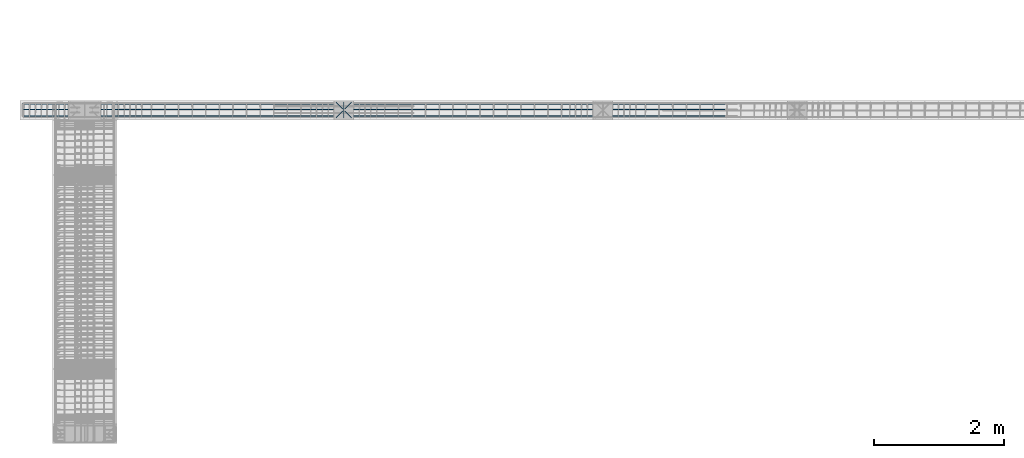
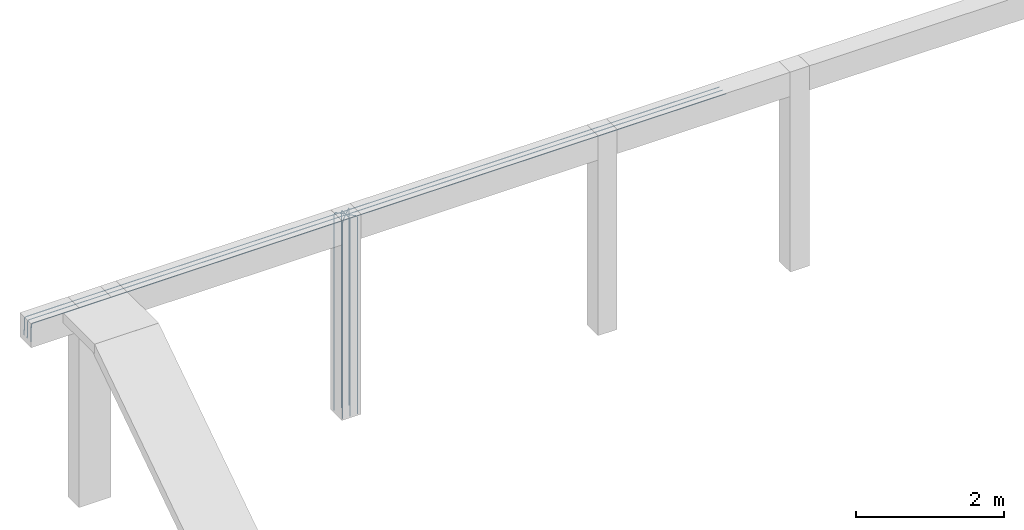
# One storey, part 9 of 24: 2 reinforcing bars.
"""IFC2X3 building model written with IfcOpenShell, lengths in metres."""

import ifcopenshell
import ifcopenshell.guid

model = None  # the IFC model being written
_history = None  # IfcOwnerHistory: only IFC2X3 demands one
_inside = {}  # id of a spatial element -> (the spatial element, [elements in it])
_under = {}  # id of a project, library or spatial element -> (it, [spatial elements below it])
_declared = {}  # id of a project -> (the project, [libraries it declares])
_typed = {}  # id of a type object -> (the type object, [elements of that type])
_made_of = {}  # id of a material, layer set ... -> (it, [elements and type objects made of it])


def new_model(schema):
    """Start an empty IFC model of exactly this schema.

    Asked for "IFC4X3", IfcOpenShell would pick the latest addendum, in which some entities
    have other attributes; the version numbers below select the first issue.
    IFC2X3 requires an IfcOwnerHistory on every rooted entity: one is made here for all.
    """
    global model, _history
    if schema == "IFC4X3":
        model = ifcopenshell.file(schema_version=(4, 3, 0, 0))
    else:
        model = ifcopenshell.file(schema=schema)
    _inside.clear()
    _under.clear()
    _declared.clear()
    _typed.clear()
    _made_of.clear()
    _history = None
    if model.schema == "IFC2X3":
        org = make("IfcOrganization", Name="unknown")
        user = make(
            "IfcPersonAndOrganization",
            ThePerson=make("IfcPerson", FamilyName="unknown"),
            TheOrganization=org,
        )
        app = make(
            "IfcApplication",
            ApplicationDeveloper=org,
            Version="unknown",
            ApplicationFullName="unknown",
            ApplicationIdentifier="unknown",
        )
        _history = make(
            "IfcOwnerHistory",
            OwningUser=user,
            OwningApplication=app,
            ChangeAction="ADDED",
            CreationDate=0,
        )
    return model


def make(cls, **values):
    """One entity of the class cls with the attributes given. An attribute that is None is left unset."""
    return model.create_entity(
        cls, **{name: value for name, value in values.items() if value is not None}
    )


def entity(cls, *values):
    """Any entity or typed value of the class cls, its attributes in the order of the schema. None: left unset."""
    e = model.create_entity(cls)
    for i, value in enumerate(values):
        if value is not None:
            e[i] = value
    return e


def rooted(cls, **values):
    """An entity with a GlobalId (a new one), such as an element, a storey or a relation."""
    return make(cls, GlobalId=ifcopenshell.guid.new(), OwnerHistory=_history, **values)


def si_unit(unit_type, name, prefix=None):
    """IfcSIUnit, for example si_unit("LENGTHUNIT", "METRE", prefix="MILLI")."""
    return make("IfcSIUnit", UnitType=unit_type, Prefix=prefix, Name=name)


def assignment(units):
    """IfcUnitAssignment: the units of a project."""
    return None if units is None else make("IfcUnitAssignment", Units=units)


def point(xyz):
    """IfcCartesianPoint."""
    return None if xyz is None else make("IfcCartesianPoint", Coordinates=xyz)


def direction(xyz):
    """IfcDirection."""
    return None if xyz is None else make("IfcDirection", DirectionRatios=xyz)


def frame(location, z_axis=None, x_axis=None):
    """IfcAxis2Placement3D, a coordinate frame: its origin and axes. An axis left out is left unset."""
    return make(
        "IfcAxis2Placement3D",
        Location=point(location),
        Axis=direction(z_axis),
        RefDirection=direction(x_axis),
    )


def origin():
    """The frame at (0, 0, 0) with its axes left unset."""
    return frame((0.0, 0.0, 0.0))


def place(relative_to, where):
    """IfcLocalPlacement: puts the frame where relative to a parent placement (None: the world)."""
    return make(
        "IfcLocalPlacement", PlacementRelTo=relative_to, RelativePlacement=where
    )


def context(
    kind, dimensions, precision=None, world=None, true_north=None, identifier=None
):
    """IfcGeometricRepresentationContext, for example the 3D "Model" context."""
    return make(
        "IfcGeometricRepresentationContext",
        ContextIdentifier=identifier,
        ContextType=kind,
        CoordinateSpaceDimension=dimensions,
        Precision=precision,
        WorldCoordinateSystem=world,
        TrueNorth=true_north,
    )


def subcontext(parent, identifier, kind, view, scale=None):
    """IfcGeometricRepresentationSubContext, for example "Body" below "Model"."""
    return make(
        "IfcGeometricRepresentationSubContext",
        ContextIdentifier=identifier,
        ContextType=kind,
        ParentContext=parent,
        TargetScale=scale,
        TargetView=view,
    )


def project(units=None, contexts=None):
    """IfcProject with its units and contexts."""
    return rooted(
        "IfcProject",
        Name="project",
        RepresentationContexts=contexts,
        UnitsInContext=assignment(units),
    )


def spatial(cls, under=None, at=None, **own):
    """A site, building, storey or space (cls), placed at a placement, below another one or the project."""
    s = rooted(cls, ObjectPlacement=at, **own)
    if under is not None:
        _under.setdefault(under.id(), (under, []))[1].append(s)
    return s


def shape(context_of_items, identifier, shape_type, items):
    """IfcShapeRepresentation: the items that make up one representation, for example the "Body"."""
    return make(
        "IfcShapeRepresentation",
        ContextOfItems=context_of_items,
        RepresentationIdentifier=identifier,
        RepresentationType=shape_type,
        Items=items,
    )


def source(mapping_origin, context_of_items, identifier, shape_type, items):
    """IfcRepresentationMap: a shape defined once, which mapped items show again and again."""
    return make(
        "IfcRepresentationMap",
        MappingOrigin=mapping_origin,
        MappedRepresentation=shape(context_of_items, identifier, shape_type, items),
    )


def transform(
    local_origin,
    x_axis=None,
    y_axis=None,
    z_axis=None,
    scale=None,
    scale2=None,
    scale3=None,
    uniform=True,
):
    """IfcCartesianTransformationOperator3D, or its non-uniform kind. x_axis, y_axis, z_axis: its Axis1, 2, 3."""
    if uniform:
        return make(
            "IfcCartesianTransformationOperator3D",
            Axis1=direction(x_axis),
            Axis2=direction(y_axis),
            LocalOrigin=point(local_origin),
            Scale=scale,
            Axis3=direction(z_axis),
        )
    return make(
        "IfcCartesianTransformationOperator3DnonUniform",
        Axis1=direction(x_axis),
        Axis2=direction(y_axis),
        LocalOrigin=point(local_origin),
        Scale=scale,
        Axis3=direction(z_axis),
        Scale2=scale2,
        Scale3=scale3,
    )


def mapped(mapping_source, mapping_target):
    """IfcMappedItem: shows the shape of a source again, moved by a transform."""
    return make(
        "IfcMappedItem", MappingSource=mapping_source, MappingTarget=mapping_target
    )


def made_of(thing, what):
    """Note that an element or type object is made of a material, layer set ...; save() writes the relation."""
    if what is not None:
        _made_of.setdefault(what.id(), (what, []))[1].append(thing)
    return thing


def element(
    cls,
    number,
    at=None,
    inside=None,
    cuts=None,
    type_object=None,
    material=None,
    context=None,
    identifier="Body",
    shape_type=None,
    held_by="IfcProductDefinitionShape",
    body=None,
    shapes=None,
    **own,
):
    """One element of the class cls, such as IfcWall. Its Tag is "e" and its number.

    at: its placement. inside: the storey or other place that contains it. cuts: it is an
    opening in that element (IfcRelVoidsElement). A single representation is given by context,
    identifier, shape_type and body (its items); several are given by shapes. held_by: the class
    of the entity that holds the representations. save() writes the other relations.
    """
    e = rooted(cls, Tag="e%d" % number, ObjectPlacement=at, **own)
    if body is not None:
        shapes = [shape(context, identifier, shape_type, body)]
    if shapes is not None:
        e.Representation = make(held_by, Representations=shapes)
    if inside is not None:
        _inside.setdefault(inside.id(), (inside, []))[1].append(e)
    if cuts is not None:
        rooted(
            "IfcRelVoidsElement", RelatingBuildingElement=cuts, RelatedOpeningElement=e
        )
    if type_object is not None:
        _typed.setdefault(type_object.id(), (type_object, []))[1].append(e)
    return made_of(e, material)


def aggregate(whole, parts):
    """IfcRelAggregates: a whole, such as a stair, and the parts it consists of."""
    return rooted("IfcRelAggregates", RelatingObject=whole, RelatedObjects=parts)


def save(model, path):
    """Write the relations noted so far, then the file.

    IfcRelAggregates (storeys below a building ...), IfcRelContainedInSpatialStructure (elements
    in a storey), IfcRelDefinesByType, IfcRelAssociatesMaterial and IfcRelDeclares: one each for
    every whole, place, type object, material and project.
    """
    for whole, parts in _under.values():
        aggregate(whole, parts)
    for where, things in _inside.values():
        rooted(
            "IfcRelContainedInSpatialStructure",
            RelatedElements=things,
            RelatingStructure=where,
        )
    for kind, things in _typed.values():
        rooted("IfcRelDefinesByType", RelatedObjects=things, RelatingType=kind)
    for what, things in _made_of.values():
        rooted("IfcRelAssociatesMaterial", RelatedObjects=things, RelatingMaterial=what)
    for by, libraries in _declared.values():
        rooted("IfcRelDeclares", RelatingContext=by, RelatedDefinitions=libraries)
    model.write(path)


model = new_model("IFC2X3")

# Units and contexts
model_context = context("Model", 3, precision=0.0, world=origin(), true_north=direction((0.0, 1.0)))
plan_context = context("Plan", 3, precision=0.0, world=origin(), true_north=direction((0.0, 1.0)))
body_context = subcontext(model_context, "Body", "Model", "MODEL_VIEW", scale=1.0)
ifc_project = project(units=[si_unit("LENGTHUNIT", "METRE"), si_unit("AREAUNIT", "SQUARE_METRE"), si_unit("VOLUMEUNIT", "CUBIC_METRE"), si_unit("PLANEANGLEUNIT", "RADIAN"), si_unit("THERMODYNAMICTEMPERATUREUNIT", "DEGREE_CELSIUS"), si_unit("FORCEUNIT", "NEWTON"), si_unit("MASSUNIT", "GRAM", prefix="KILO")], contexts=[model_context, plan_context])

# Site, building, storey
placement = place(None, origin())
site = spatial("IfcSite", under=ifc_project, at=placement, Name="Default Site", CompositionType="ELEMENT")
building = spatial("IfcBuilding", under=site, at=placement, Name="Default Building", CompositionType="ELEMENT")
storey_placement = place(placement, frame((0.0, 0.0, 3.3), z_axis=(1.0, 0.0, 0.0), x_axis=(0.0, 0.0, 1.0)))
storey = spatial("IfcBuildingStorey", under=building, at=storey_placement, Name="Piano 2", CompositionType="ELEMENT", Elevation=3.3)

# Reinforcing bars
shared_shape_1 = source(origin(), body_context, None, "AdvancedSweptSolid", [
    entity("IfcSweptDiskSolid", entity("IfcCompositeCurve", [entity("IfcCompositeCurveSegment", "CONTINUOUS", True, entity("IfcPolyline", [entity("IfcCartesianPoint", [0.0, 0.0, 0.0]), entity("IfcCartesianPoint", [0.0, -0.012466, 0.276029]), entity("IfcCartesianPoint", [0.003751, -0.013097, 0.290014]), entity("IfcCartesianPoint", [0.014, -0.01356, 0.300253]), entity("IfcCartesianPoint", [0.028, -0.013729, 0.304]), entity("IfcCartesianPoint", [0.962, -0.013729, 0.304]), entity("IfcCartesianPoint", [4.962, -0.013729, 0.304]), entity("IfcCartesianPoint", [8.962, -0.013729, 0.304]), entity("IfcCartesianPoint", [10.462, -0.013729, 0.304]), entity("IfcCartesianPoint", [10.847, -0.013729, 0.304])]))], False), 0.007, 0.0, 0.0),
])
shared_shape_2 = source(origin(), body_context, None, "MappedRepresentation", [mapped(shared_shape_1, transform((-4.962, 4.922729, 2.944)))])
shared_shape_3 = source(origin(), body_context, None, "AdvancedSweptSolid", [
    entity("IfcSweptDiskSolid", entity("IfcCompositeCurve", [entity("IfcCompositeCurveSegment", "CONTINUOUS", True, entity("IfcPolyline", [entity("IfcCartesianPoint", [0.0, 0.0, 0.0]), entity("IfcCartesianPoint", [0.0, -0.012466, 0.276029]), entity("IfcCartesianPoint", [0.003751, -0.013097, 0.290014]), entity("IfcCartesianPoint", [0.014, -0.01356, 0.300253]), entity("IfcCartesianPoint", [0.028, -0.013729, 0.304]), entity("IfcCartesianPoint", [0.962, -0.013729, 0.304]), entity("IfcCartesianPoint", [4.962, -0.013729, 0.304]), entity("IfcCartesianPoint", [8.962, -0.013729, 0.304]), entity("IfcCartesianPoint", [10.462, -0.013729, 0.304]), entity("IfcCartesianPoint", [10.847, -0.013729, 0.304])]))], False), 0.007, 0.0, 0.0),
])
shared_shape_4 = source(origin(), body_context, None, "MappedRepresentation", [mapped(shared_shape_3, transform((-4.962, 5.020729, 2.944)))])
shared_shape_5 = source(origin(), body_context, None, "AdvancedSweptSolid", [
    entity("IfcSweptDiskSolid", entity("IfcCompositeCurve", [entity("IfcCompositeCurveSegment", "CONTINUOUS", True, entity("IfcPolyline", [entity("IfcCartesianPoint", [0.0, 0.0, 0.0]), entity("IfcCartesianPoint", [0.0, -0.012466, 0.276029]), entity("IfcCartesianPoint", [0.003751, -0.013097, 0.290014]), entity("IfcCartesianPoint", [0.014, -0.01356, 0.300253]), entity("IfcCartesianPoint", [0.028, -0.013729, 0.304]), entity("IfcCartesianPoint", [0.962, -0.013729, 0.304]), entity("IfcCartesianPoint", [4.962, -0.013729, 0.304]), entity("IfcCartesianPoint", [8.962, -0.013729, 0.304]), entity("IfcCartesianPoint", [10.462, -0.013729, 0.304]), entity("IfcCartesianPoint", [10.847, -0.013729, 0.304])]))], False), 0.007, 0.0, 0.0),
])
shared_shape_6 = source(origin(), body_context, None, "MappedRepresentation", [mapped(shared_shape_5, transform((-4.962, 5.104729, 2.944)))])
element("IfcReinforcingBar", 1, at=placement, inside=storey, Name="Arm Superiore; Trave:5 [Piano:2]", BarLength=33.441411, BarRole="MAIN", BarSurface="TEXTURED", NominalDiameter=0.014, shapes=[
    shape(body_context, None, "MappedRepresentation", [mapped(shared_shape_2, transform((0.0, 0.0, 0.0))), mapped(shared_shape_4, transform((0.0, 0.0, 0.0))), mapped(shared_shape_6, transform((0.0, 0.0, 0.0)))]),
])
shared_shape_7 = source(origin(), body_context, None, "AdvancedSweptSolid", [
    entity("IfcSweptDiskSolid", entity("IfcCompositeCurve", [entity("IfcCompositeCurveSegment", "CONTINUOUS", True, entity("IfcPolyline", [entity("IfcCartesianPoint", [0.0, 0.0, 0.0]), entity("IfcCartesianPoint", [0.0, 0.0, 3.237]), entity("IfcCartesianPoint", [0.002653, 0.002653, 3.251]), entity("IfcCartesianPoint", [0.009899, 0.009899, 3.261249]), entity("IfcCartesianPoint", [0.019799, 0.019799, 3.265]), entity("IfcCartesianPoint", [0.098995, 0.098995, 3.265])]))], False), 0.007, 0.0, 0.0),
])
shared_shape_8 = source(origin(), body_context, None, "MappedRepresentation", [mapped(shared_shape_7, transform((-0.115, 4.885, 0.0)))])
shared_shape_9 = source(origin(), body_context, None, "AdvancedSweptSolid", [
    entity("IfcSweptDiskSolid", entity("IfcCompositeCurve", [entity("IfcCompositeCurveSegment", "CONTINUOUS", True, entity("IfcPolyline", [entity("IfcCartesianPoint", [0.0, 0.0, 0.0]), entity("IfcCartesianPoint", [0.0, 0.0, 3.237]), entity("IfcCartesianPoint", [-0.002653, 0.002653, 3.251]), entity("IfcCartesianPoint", [-0.009899, 0.009899, 3.261249]), entity("IfcCartesianPoint", [-0.019799, 0.019799, 3.265]), entity("IfcCartesianPoint", [-0.098995, 0.098995, 3.265])]))], False), 0.007, 0.0, 0.0),
])
shared_shape_10 = source(origin(), body_context, None, "MappedRepresentation", [mapped(shared_shape_9, transform((0.115, 4.885, 0.0)))])
shared_shape_11 = source(origin(), body_context, None, "AdvancedSweptSolid", [
    entity("IfcSweptDiskSolid", entity("IfcCompositeCurve", [entity("IfcCompositeCurveSegment", "CONTINUOUS", True, entity("IfcPolyline", [entity("IfcCartesianPoint", [0.0, 0.0, 0.0]), entity("IfcCartesianPoint", [0.0, 0.0, 3.237]), entity("IfcCartesianPoint", [-0.002653, -0.002653, 3.251]), entity("IfcCartesianPoint", [-0.009899, -0.009899, 3.261249]), entity("IfcCartesianPoint", [-0.019799, -0.019799, 3.265]), entity("IfcCartesianPoint", [-0.098995, -0.098995, 3.265])]))], False), 0.007, 0.0, 0.0),
])
shared_shape_12 = source(origin(), body_context, None, "MappedRepresentation", [mapped(shared_shape_11, transform((0.115, 5.115, 0.0)))])
shared_shape_13 = source(origin(), body_context, None, "AdvancedSweptSolid", [
    entity("IfcSweptDiskSolid", entity("IfcCompositeCurve", [entity("IfcCompositeCurveSegment", "CONTINUOUS", True, entity("IfcPolyline", [entity("IfcCartesianPoint", [0.0, 0.0, 0.0]), entity("IfcCartesianPoint", [0.0, 0.0, 3.237]), entity("IfcCartesianPoint", [0.002653, -0.002653, 3.251]), entity("IfcCartesianPoint", [0.009899, -0.009899, 3.261249]), entity("IfcCartesianPoint", [0.019799, -0.019799, 3.265]), entity("IfcCartesianPoint", [0.098995, -0.098995, 3.265])]))], False), 0.007, 0.0, 0.0),
])
shared_shape_14 = source(origin(), body_context, None, "MappedRepresentation", [mapped(shared_shape_13, transform((-0.115, 5.115, 0.0)))])
shared_shape_15 = source(origin(), body_context, None, "AdvancedSweptSolid", [
    entity("IfcSweptDiskSolid", entity("IfcCompositeCurve", [entity("IfcCompositeCurveSegment", "CONTINUOUS", True, entity("IfcPolyline", [entity("IfcCartesianPoint", [0.0, 0.0, 0.0]), entity("IfcCartesianPoint", [0.0, 0.0, 3.237]), entity("IfcCartesianPoint", [0.0, 0.003751, 3.251]), entity("IfcCartesianPoint", [0.0, 0.014, 3.261249]), entity("IfcCartesianPoint", [0.0, 0.028, 3.265]), entity("IfcCartesianPoint", [0.0, 0.14, 3.265])]))], False), 0.007, 0.0, 0.0),
])
shared_shape_16 = source(origin(), body_context, None, "MappedRepresentation", [mapped(shared_shape_15, transform((0.0, 4.885, 0.0)))])
shared_shape_17 = source(origin(), body_context, None, "AdvancedSweptSolid", [
    entity("IfcSweptDiskSolid", entity("IfcCompositeCurve", [entity("IfcCompositeCurveSegment", "CONTINUOUS", True, entity("IfcPolyline", [entity("IfcCartesianPoint", [0.0, 0.0, 0.0]), entity("IfcCartesianPoint", [0.0, 0.0, 3.237]), entity("IfcCartesianPoint", [0.0, -0.003751, 3.251]), entity("IfcCartesianPoint", [0.0, -0.014, 3.261249]), entity("IfcCartesianPoint", [0.0, -0.028, 3.265]), entity("IfcCartesianPoint", [0.0, -0.14, 3.265])]))], False), 0.007, 0.0, 0.0),
])
shared_shape_18 = source(origin(), body_context, None, "MappedRepresentation", [mapped(shared_shape_17, transform((0.0, 5.115, 0.0)))])
element("IfcReinforcingBar", 2, at=placement, inside=storey, Name="Arm Principale; Pilastro:11 [Piano:2]", BarLength=20.43, BarRole="MAIN", BarSurface="TEXTURED", NominalDiameter=0.014, shapes=[
    shape(body_context, None, "MappedRepresentation", [mapped(shared_shape_8, transform((0.0, 0.0, 0.0))), mapped(shared_shape_10, transform((0.0, 0.0, 0.0))), mapped(shared_shape_12, transform((0.0, 0.0, 0.0))), mapped(shared_shape_14, transform((0.0, 0.0, 0.0))), mapped(shared_shape_16, transform((0.0, 0.0, 0.0))), mapped(shared_shape_18, transform((0.0, 0.0, 0.0)))]),
])

save(model, "model.ifc")
